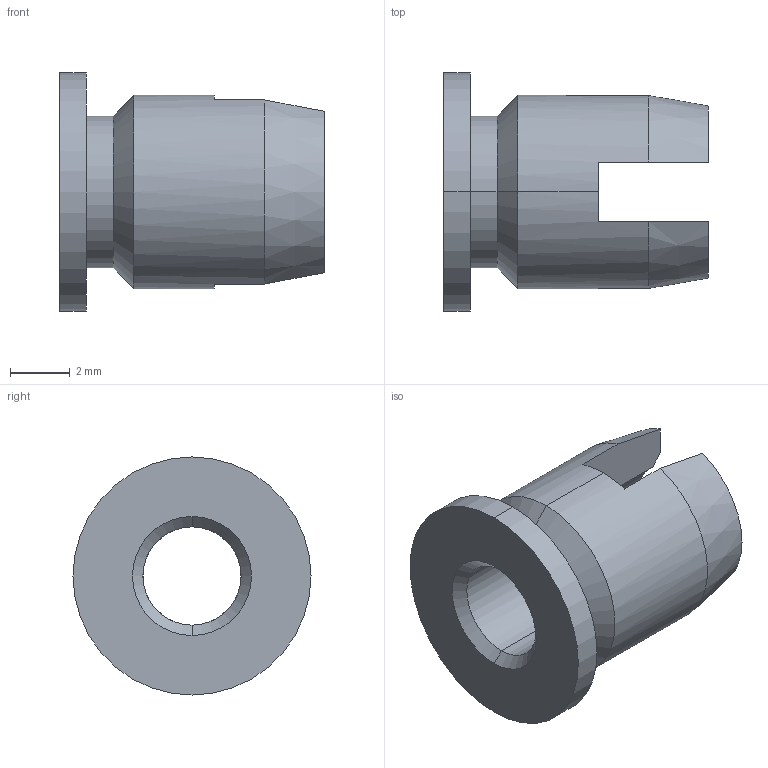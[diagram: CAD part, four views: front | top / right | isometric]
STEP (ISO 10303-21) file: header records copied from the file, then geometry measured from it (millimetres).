
FILE_DESCRIPTION (( 'STEP AP203' ), '1' );
FILE_NAME ('FSUK-SCRH-M04.STEP', '2021-06-16T12:11:30', ( '' ), ( '' ), 'SwSTEP 2.0', 'SolidWorks 2021', '' );
FILE_SCHEMA (( 'CONFIG_CONTROL_DESIGN' ));
Length unit declared in the file: millimetre
Products named in the file (1): FSUK-SCRH-M04
Bounding box: 8.89 x 8 x 8 mm (x, y, z)
Volume: 186.8 mm3; surface area: 357.1 mm2
Topology: 1 solids, 1 shells, 26 faces, 66 edges, 42 vertices
Faces by surface type: plane 10, cone 8, cylinder 8
Entity records: 881 total; most frequent: CARTESIAN_POINT 159, DIRECTION 142, ORIENTED_EDGE 132, EDGE_CURVE 66, AXIS2_PLACEMENT_3D 57, VERTEX_POINT 42, CIRCLE 30, VECTOR 28
